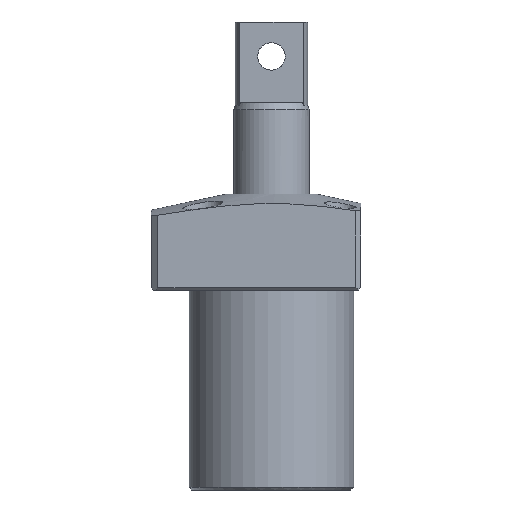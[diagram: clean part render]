
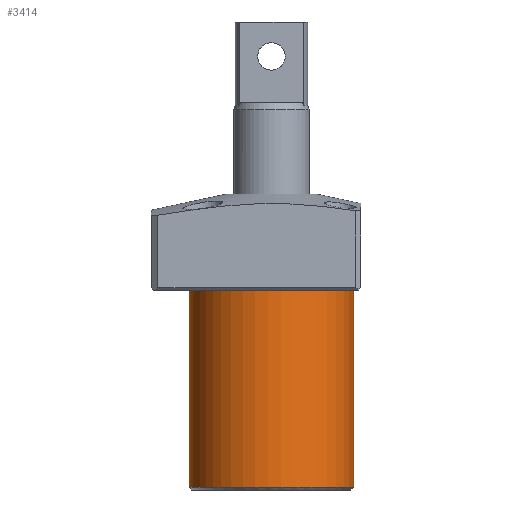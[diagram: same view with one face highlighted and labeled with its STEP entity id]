
A CAD part, front view. The second image highlights one B-rep face of the part: STEP entity #3414.
In plain terms, the highlighted free-form (B-spline) face has degree [1, 3] with [2, 4] control points.
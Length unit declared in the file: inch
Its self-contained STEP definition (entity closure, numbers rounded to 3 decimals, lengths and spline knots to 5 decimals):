
#106 = CARTESIAN_POINT ( 'NONE',  ( -0.94094, 0., 0.0315 ) ) ;
#277 = CARTESIAN_POINT ( 'NONE',  ( -0.94094, 0., 2.28346 ) ) ;
#361 = CARTESIAN_POINT ( 'NONE',  ( 0.94094, 0., 2.28346 ) ) ;
#413 = VERTEX_POINT ( 'NONE', #631 ) ;
#509 = EDGE_CURVE ( 'NONE', #1314, #413, #2930, .T. ) ;
#631 = CARTESIAN_POINT ( 'NONE',  ( -0.94094, 0., 2.28346 ) ) ;
#669 = CARTESIAN_POINT ( 'NONE',  ( -0.94094, 0., 2.28346 ) ) ;
#672 = CARTESIAN_POINT ( 'NONE',  ( 0.94094, 0., 2.28346 ) ) ;
#861 = FACE_OUTER_BOUND ( 'NONE', #1011, .T. ) ;
#1011 = EDGE_LOOP ( 'NONE', ( #4009, #2704, #3011, #3296 ) ) ;
#1171 = CARTESIAN_POINT ( 'NONE',  ( 0.94094, 0., 0.0315 ) ) ;
#1187 = CARTESIAN_POINT ( 'NONE',  ( 0.94094, -1.88189, 0.0315 ) ) ;
#1314 = VERTEX_POINT ( 'NONE', #3858 ) ;
#1317 = B_SPLINE_CURVE_WITH_KNOTS ( 'NONE', 1,
 ( #361, #2944 ),
 .UNSPECIFIED., .F., .F.,
 ( 2, 2 ),
 ( -1., 0. ),
 .UNSPECIFIED. ) ;
#1352 = CARTESIAN_POINT ( 'NONE',  ( -0.94094, 0., 0.0315 ) ) ;
#1436 = B_SPLINE_CURVE_WITH_KNOTS ( 'NONE', 1,
 ( #1695, #669 ),
 .UNSPECIFIED., .F., .F.,
 ( 2, 2 ),
 ( -1., 0. ),
 .UNSPECIFIED. ) ;
#1468 = EDGE_CURVE ( 'NONE', #1314, #2120, #1317, .T. ) ;
#1678 = CARTESIAN_POINT ( 'NONE',  ( 0.94094, -1.88189, 2.28346 ) ) ;
#1695 = CARTESIAN_POINT ( 'NONE',  ( -0.94094, 0., 0.0315 ) ) ;
#1775 = CARTESIAN_POINT ( 'NONE',  ( 0.94094, -1.88189, 0.0315 ) ) ;
#1881 = CARTESIAN_POINT ( 'NONE',  ( -0.94094, 0., 0.0315 ) ) ;
#2120 = VERTEX_POINT ( 'NONE', #1171 ) ;
#2183 = CARTESIAN_POINT ( 'NONE',  ( 0.94094, 0., 2.28346 ) ) ;
#2224 = CARTESIAN_POINT ( 'NONE',  ( 0.94094, -1.88189, 2.28346 ) ) ;
#2343 = CARTESIAN_POINT ( 'NONE',  ( 0.94094, 0., 0.0315 ) ) ;
#2557 = CARTESIAN_POINT ( 'NONE',  ( -0.94094, 0., 2.28346 ) ) ;
#2704 = ORIENTED_EDGE ( 'NONE', *, *, #3094, .F. ) ;
#2709 = CARTESIAN_POINT ( 'NONE',  ( -0.94094, -1.88189, 0.0315 ) ) ;
#2872 = EDGE_CURVE ( 'NONE', #2120, #3028, #2883, .T. ) ;
#2883 =( BOUNDED_CURVE ( )  B_SPLINE_CURVE ( 3, ( #2343, #1775, #2709, #106 ),
 .UNSPECIFIED., .F., .T. ) 
 B_SPLINE_CURVE_WITH_KNOTS ( ( 4, 4 ),
 ( -3.14159, 0. ),
 .UNSPECIFIED. ) 
 CURVE ( )  GEOMETRIC_REPRESENTATION_ITEM ( )  RATIONAL_B_SPLINE_CURVE ( ( 1., 0.333, 0.333, 1. ) ) 
 REPRESENTATION_ITEM ( '' )  );
#2930 =( BOUNDED_CURVE ( )  B_SPLINE_CURVE ( 3, ( #672, #1678, #2942, #277 ),
 .UNSPECIFIED., .F., .T. ) 
 B_SPLINE_CURVE_WITH_KNOTS ( ( 4, 4 ),
 ( -3.14159, 0. ),
 .UNSPECIFIED. ) 
 CURVE ( )  GEOMETRIC_REPRESENTATION_ITEM ( )  RATIONAL_B_SPLINE_CURVE ( ( 1., 0.333, 0.333, 1. ) ) 
 REPRESENTATION_ITEM ( '' )  );
#2942 = CARTESIAN_POINT ( 'NONE',  ( -0.94094, -1.88189, 2.28346 ) ) ;
#2944 = CARTESIAN_POINT ( 'NONE',  ( 0.94094, 0., 0.0315 ) ) ;
#3011 = ORIENTED_EDGE ( 'NONE', *, *, #2872, .F. ) ;
#3028 = VERTEX_POINT ( 'NONE', #1352 ) ;
#3094 = EDGE_CURVE ( 'NONE', #3028, #413, #1436, .T. ) ;
#3170 = CARTESIAN_POINT ( 'NONE',  ( -0.94094, -1.88189, 0.0315 ) ) ;
#3296 = ORIENTED_EDGE ( 'NONE', *, *, #1468, .F. ) ;
#3414 = ADVANCED_FACE ( 'NONE', ( #861 ), #3641, .F. ) ;
#3437 = CARTESIAN_POINT ( 'NONE',  ( -0.94094, -1.88189, 2.28346 ) ) ;
#3641 =( BOUNDED_SURFACE ( )  B_SPLINE_SURFACE ( 1, 3, ( 
 ( #2183, #2224, #3437, #2557 ),
 ( #3860, #1187, #3170, #1881 ) ),
 .UNSPECIFIED., .F., .F., .F. ) 
 B_SPLINE_SURFACE_WITH_KNOTS ( ( 2, 2 ),
 ( 4, 4 ),
 ( 0., 1. ),
 ( 0., 1. ),
 .UNSPECIFIED. ) 
 GEOMETRIC_REPRESENTATION_ITEM ( )  RATIONAL_B_SPLINE_SURFACE ( (
 ( 1., 0.333, 0.333, 1.),
 ( 1., 0.333, 0.333, 1.) ) ) 
 REPRESENTATION_ITEM ( '' )  SURFACE ( )  );
#3858 = CARTESIAN_POINT ( 'NONE',  ( 0.94094, 0., 2.28346 ) ) ;
#3860 = CARTESIAN_POINT ( 'NONE',  ( 0.94094, 0., 0.0315 ) ) ;
#4009 = ORIENTED_EDGE ( 'NONE', *, *, #509, .T. ) ;
